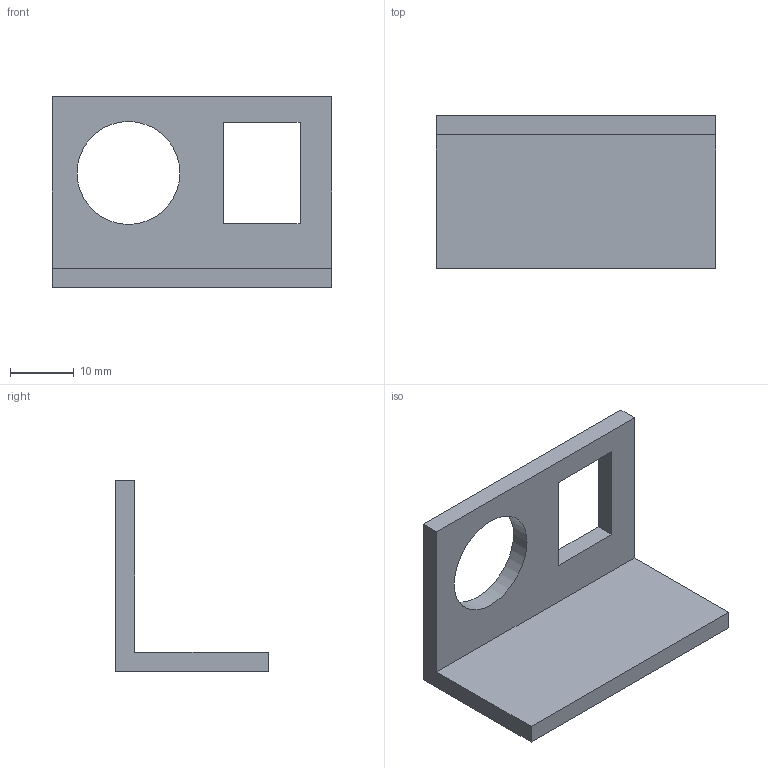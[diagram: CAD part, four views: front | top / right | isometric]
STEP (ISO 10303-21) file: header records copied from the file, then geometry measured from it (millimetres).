
FILE_DESCRIPTION(('Open CASCADE Model'),'2;1');
FILE_NAME('Open CASCADE Shape Model','2026-10-06T19:56:10',('Author'),( 'Open CASCADE'),'Open CASCADE STEP processor 7.9','Open CASCADE 7.9' ,'Unknown');
FILE_SCHEMA(('AUTOMOTIVE_DESIGN { 1 0 10303 214 1 1 1 1 }'));
Length unit declared in the file: millimetre
Products named in the file (1): Open CASCADE STEP translator 7.9 40
Bounding box: 44 x 24 x 30 mm (x, y, z)
Volume: 5537.6 mm3; surface area: 4582.4 mm2
Topology: 1 solids, 1 shells, 13 faces, 33 edges, 22 vertices
Faces by surface type: plane 12, cylinder 1
Full cylindrical faces by diameter (mm): 16.2 x1
Entity records: 818 total; most frequent: CARTESIAN_POINT 153, DIRECTION 111, LINE 77, VECTOR 77, ORIENTED_EDGE 66, PCURVE 66, DEFINITIONAL_REPRESENTATION 66, EDGE_CURVE 33
